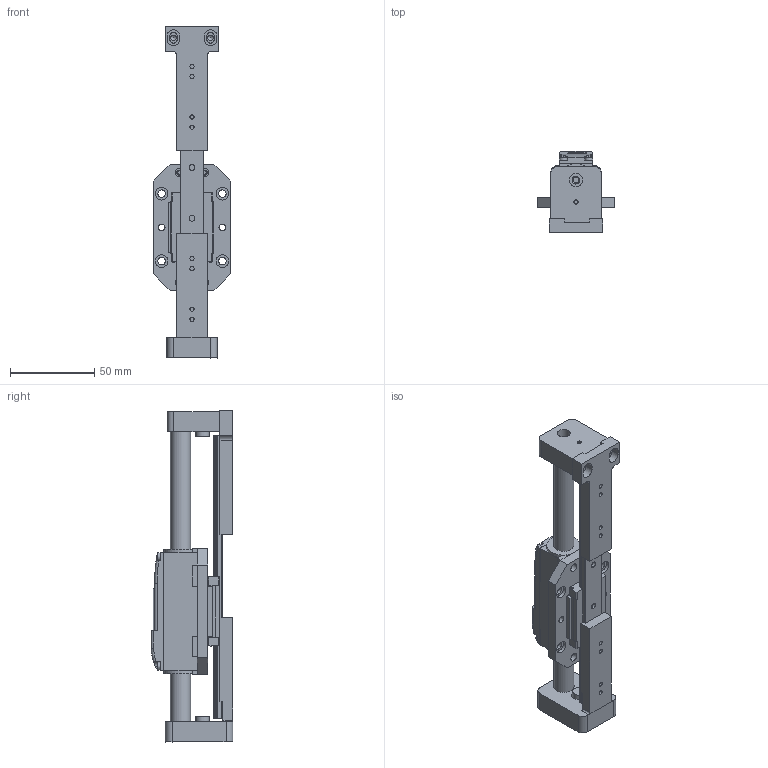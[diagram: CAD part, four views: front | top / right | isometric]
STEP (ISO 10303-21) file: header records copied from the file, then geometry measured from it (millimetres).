
FILE_DESCRIPTION(('FreeCAD Model'),'2;1');
FILE_NAME('C:/Users/Patrik/Desktop/FreeCAD/0000-0200 Lineární aktuátor, LM statický/LA_LMMR-09-080.step','2019-04-22T20:13:24',('Author'),(''), 'Open CASCADE STEP processor 7.3','FreeCAD','Unknown');
FILE_SCHEMA(('AUTOMOTIVE_DESIGN { 1 0 10303 214 1 1 1 1 }'));
Length unit declared in the file: millimetre
Products named in the file (13): Zdvih_80; Static001; Alle_Motoren004; Chamfer002; LG010; Moving001; Alle_Motoren001; Pocket004; LG009; Body006; Body009; _K0571.00800857; _K0571.00800858
Assembly tree (12 placements, depth 3):
  Zdvih_80
    Static001
      Alle_Motoren004
      Chamfer002
      LG010
    Moving001
      Alle_Motoren001
      Pocket004
      LG009
      Body006
      Body009
      _K0571.00800857
      _K0571.00800858
Bounding box: 46 x 48.4 x 197 mm (x, y, z)
Volume: 122969.7 mm3; surface area: 56783.4 mm2
Topology: 10 solids, 10 shells, 566 faces, 1410 edges, 922 vertices
Faces by surface type: plane 306, cylinder 223, cone 21, revolution 8, torus 6, extrusion 2
Full cylindrical faces by diameter (mm): 2.05 x4, 2.5 x10, 3 x6, 3.3 x8, 3.5 x4, 4 x5, 4.5 x8, 4.6 x2, 5 x4, 6 x4, 7.5 x8, 7.7 x2, 8 x2, 9 x2, 12 x1, 12.08 x1, 12.4 x2, 19.9 x2
Entity records: 37321 total; most frequent: CARTESIAN_POINT 8899, DIRECTION 5245, VECTOR 2962, LINE 2960, ORIENTED_EDGE 2786, PCURVE 2786, DEFINITIONAL_REPRESENTATION 2786, EDGE_CURVE 1393
